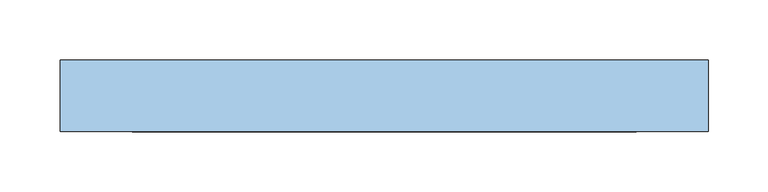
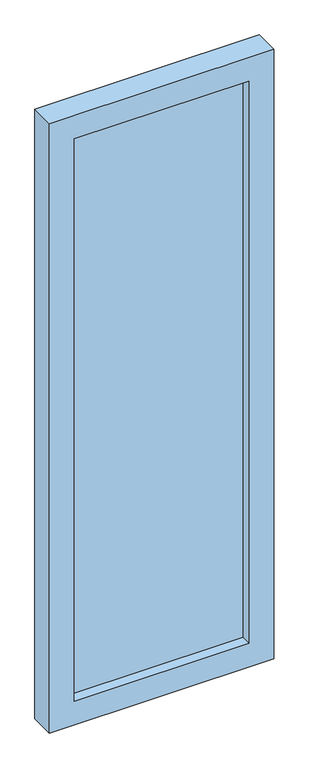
"""IFC4 building model written with IfcOpenShell, lengths in millimetres: window geometry, 固定窗-矩形- (1) : 54 * 100 cm."""

from ifc_helpers import new_model, si_unit, frame, origin, place, context, project, spatial, polyline, outline, extrude, source, transform, mapped, element, save


def window_3458c4c9(model_context):
    return source(origin(), model_context, "Body", "SweptSolid", [
        extrude(outline(polyline([(3100.0, 270.0), (3100.0, -270.0), (1550.0, -270.0), (1550.0, 270.0), (3100.0, 270.0)]), holes=[polyline([(3040.0, 210.0), (1610.0, 210.0), (1610.0, -210.0), (3040.0, -210.0), (3040.0, 210.0)])]), frame((0.0, -60.0, 0.0), z_axis=(0.0, 1.0, 0.0), x_axis=(0.0, 0.0, 1.0)), (0.0, 0.0, 1.0), 60.0),
        extrude(outline(polyline([(-210.0, -25.0), (210.0, -25.0), (210.0, -35.0), (-210.0, -35.0), (-210.0, -25.0)])), frame((0.0, 0.0, 1610.0), z_axis=(0.0, 0.0, 1.0), x_axis=(1.0, 0.0, 0.0)), (0.0, 0.0, 1.0), 1430.0),
    ])


if __name__ == "__main__":
    model = new_model("IFC4")
    model_context = context("Model", 3, world=origin())
    ifc_project = project(units=[si_unit("LENGTHUNIT", "METRE", prefix="MILLI")], contexts=[model_context])
    site = spatial("IfcSite", under=ifc_project)
    building = spatial("IfcBuilding", under=site)
    placement = place(None, origin())
    window_shape = window_3458c4c9(model_context)
    element("IfcWindow", 1, ObjectType="固定窗-矩形- (1) : 54 * 100 cm", at=placement, inside=building, context=model_context, shape_type="MappedRepresentation", body=[
        mapped(window_shape, transform((0.0, 0.0, 0.0), x_axis=(1.0, 0.0, 0.0), y_axis=(0.0, 1.0, 0.0), z_axis=(0.0, 0.0, 1.0))),
    ])
    save(model, "model.ifc")
